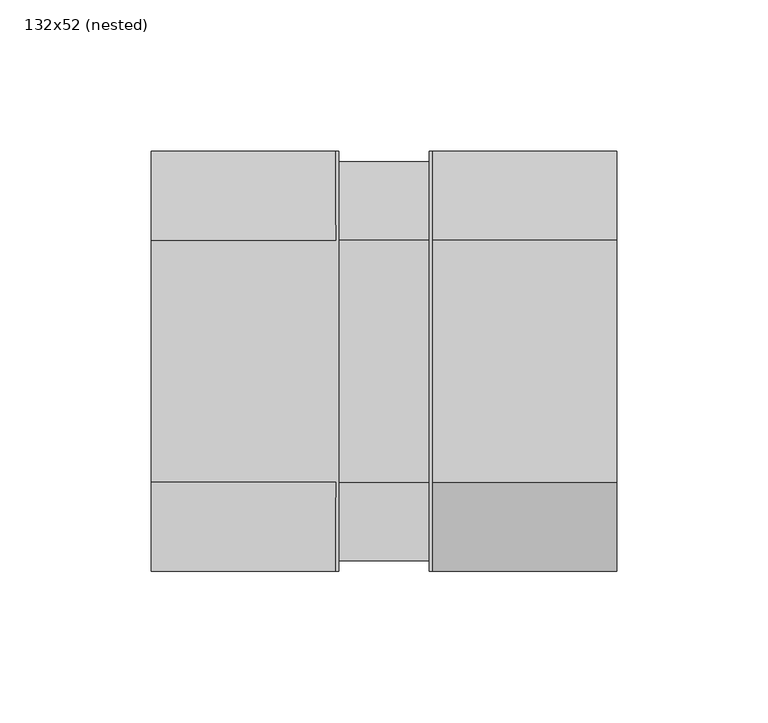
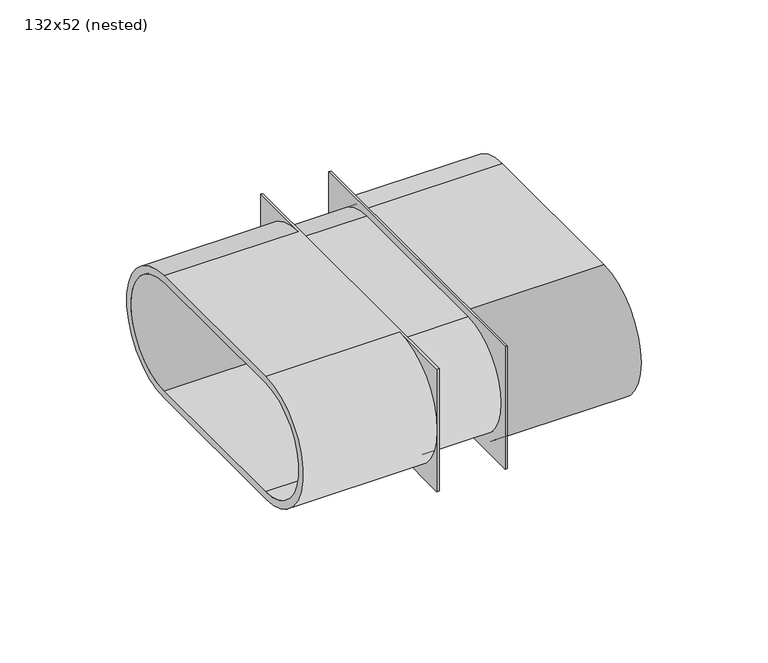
"""IFC4 building model written with IfcOpenShell, lengths in millimetres: duct fitting geometry, NLRS_57_DUF_UN_sleeve joint oval-SH_M&G : 132x52 (nested)."""

from ifc_helpers import new_model, si_unit, point, frame, frame_2d, origin, place, context, project, spatial, polyline, circle_curve, trimmed, segment, composite_curve, outline, extrude, source, transform, mapped, element, save
from ifc_brep_helpers import plane_surface, cylinder_surface, revolved_surface, advanced_brep


def duct_fitting_132x52_nested_272e3c26(model_context):
    return source(origin(), model_context, "Body", "SolidModel", [
        extrude(outline(composite_curve([segment(polyline([(-40.0, 26.0), (40.0, 26.0)]), True, "CONTINUOUS"), segment(trimmed(circle_curve(frame_2d((40.0, 0.0)), 26.0), [point((40.0, 26.0))], [point((40.0, -26.0))], False, "CARTESIAN"), True, "CONTINUOUS"), segment(polyline([(40.0, -26.0), (-40.0, -26.0)]), True, "CONTINUOUS"), segment(trimmed(circle_curve(frame_2d((-40.0, 0.0)), 26.0), [point((-40.0, -26.0))], [point((-40.0, 26.0))], False, "CARTESIAN"), True, "CONTINUOUS")], self_intersect=False)), frame((-16.0, 0.0, 0.0), z_axis=(1.0, 0.0, 0.0), x_axis=(0.0, 1.0, 0.0)), (0.0, 0.0, 1.0), 32.0),
        extrude(outline(polyline([(15.0, -69.5), (15.0, 69.5), (16.0, 69.5), (16.0, -69.5), (15.0, -69.5)])), frame((0.0, 0.0, -29.5), z_axis=(0.0, 0.0, 1.0), x_axis=(1.0, 0.0, 0.0)), (0.0, 0.0, 1.0), 59.0),
        advanced_brep(
        [(-77.0, -40.0, 29.5), (-77.0, 40.0, 29.5), (-77.0, 40.0, -29.5), (-77.0, -40.0, -29.5), (-77.0, -40.0, 26.0), (-77.0, -40.0, -26.0), (-77.0, 40.0, -26.0), (-77.0, 40.0, 26.0), (-16.0, -40.0, -29.5), (-16.0, -69.5, 0.0), (-16.0, -40.0, 29.5), (-16.0, 40.0, -29.5), (-16.0, 69.5, -29.5), (-15.0, 69.5, -29.5), (-15.0, -69.5, -29.5), (-16.0, -69.5, -29.5), (-16.0, 40.0, 29.5), (-16.0, 69.5, 0.0), (-16.0, -69.5, 29.5), (-15.0, -69.5, 29.5), (-15.0, 69.5, 29.5), (-16.0, 69.5, 29.5), (-16.0, -40.0, 26.0), (-16.0, 40.0, 26.0), (-16.0, 40.0, -26.0), (-16.0, -40.0, -26.0)],
        [
            (0, 1),
            (1, 2, circle_curve(frame((-77.0, 40.0, 0.0), z_axis=(-1.0, 0.0, 0.0), x_axis=(0.0, -1.0, 0.0)), 29.5)),
            (2, 3),
            (3, 0, circle_curve(frame((-77.0, -40.0, 0.0), z_axis=(-1.0, 0.0, 0.0), x_axis=(0.0, -1.0, 0.0)), 29.5)),
            (4, 5, circle_curve(frame((-77.0, -40.0, 0.0), z_axis=(1.0, 0.0, 0.0), x_axis=(0.0, -1.0, 0.0)), 26.0)),
            (5, 6),
            (6, 7, circle_curve(frame((-77.0, 40.0, 0.0), z_axis=(1.0, 0.0, 0.0), x_axis=(0.0, -1.0, 0.0)), 26.0)),
            (7, 4),
            (3, 8),
            (8, 9, circle_curve(frame((-16.0, -40.0, 0.0), z_axis=(-1.0, 0.0, 0.0), x_axis=(0.0, -1.0, 0.0)), 29.5)),
            (9, 10, circle_curve(frame((-16.0, -40.0, 0.0), z_axis=(-1.0, 0.0, 0.0), x_axis=(0.0, -1.0, 0.0)), 29.5)),
            (10, 0),
            (2, 11),
            (11, 12),
            (12, 13),
            (13, 14),
            (14, 15),
            (15, 8),
            (1, 16),
            (16, 17, circle_curve(frame((-16.0, 40.0, 0.0), z_axis=(-1.0, 0.0, 0.0), x_axis=(0.0, -1.0, 0.0)), 29.5)),
            (17, 11, circle_curve(frame((-16.0, 40.0, 0.0), z_axis=(-1.0, 0.0, 0.0), x_axis=(0.0, -1.0, 0.0)), 29.5)),
            (10, 18),
            (18, 19),
            (19, 20),
            (20, 21),
            (21, 16),
            (19, 14),
            (13, 20),
            (17, 12),
            (15, 9),
            (9, 18),
            (21, 17),
            (22, 23),
            (23, 24, circle_curve(frame((-16.0, 40.0, 0.0), z_axis=(-1.0, 0.0, 0.0), x_axis=(0.0, -1.0, 0.0)), 26.0)),
            (24, 25),
            (25, 22, circle_curve(frame((-16.0, -40.0, 0.0), z_axis=(-1.0, 0.0, 0.0), x_axis=(0.0, -1.0, 0.0)), 26.0)),
            (7, 23),
            (22, 4),
            (6, 24),
            (5, 25),
        ],
        [
            plane_surface(frame((-77.0, 0.0, 0.0), z_axis=(-1.0, 0.0, 0.0), x_axis=(0.0, 0.0, 1.0))),
            cylinder_surface(frame((-16.0, -40.0, 0.0), z_axis=(1.0, 0.0, 0.0), x_axis=(0.0, -1.0, 0.0)), 29.5),
            plane_surface(frame((-16.0, -40.0, -29.5), z_axis=(0.0, 0.0, -1.0), x_axis=(-1.0, 0.0, 0.0))),
            cylinder_surface(frame((-16.0, 40.0, 0.0), z_axis=(1.0, 0.0, 0.0), x_axis=(0.0, -1.0, 0.0)), 29.5),
            plane_surface(frame((-16.0, 40.0, 29.5), z_axis=(0.0, 0.0, 1.0), x_axis=(-1.0, 0.0, 0.0))),
            plane_surface(frame((-15.0, 69.5, 29.5), z_axis=(1.0, 0.0, 0.0), x_axis=(0.0, -1.0, 0.0))),
            plane_surface(frame((-16.0, 69.5, 29.5), z_axis=(-1.0, 0.0, 0.0), x_axis=(0.0, 1.0, 0.0))),
            plane_surface(frame((-16.0, -69.5, -29.5), z_axis=(0.0, -1.0, 0.0), x_axis=(1.0, 0.0, 0.0))),
            plane_surface(frame((-16.0, 69.5, 29.5), z_axis=(0.0, 1.0, 0.0), x_axis=(1.0, 0.0, 0.0))),
            plane_surface(frame((-16.0, -40.0, 26.0), z_axis=(0.0, 0.0, -1.0), x_axis=(-1.0, 0.0, 0.0))),
            revolved_surface(polyline([(-77.0, 14.0, 0.0), (-16.0, 14.0, 0.0)]), (-16.0, 40.0, 0.0), (-1.0, 0.0, 0.0)),
            plane_surface(frame((-16.0, 40.0, -26.0), z_axis=(0.0, 0.0, 1.0), x_axis=(-1.0, 0.0, 0.0))),
            revolved_surface(polyline([(-77.0, -66.0, 0.0), (-16.0, -66.0, 0.0)]), (-16.0, -40.0, 0.0), (-1.0, 0.0, 0.0)),
        ],
        [
            (0, [[1, 2, 3, 4], [5, 6, 7, 8]]),
            (1, [[-4, 9, 10, 11, 12]]),
            (2, [[-3, 13, 14, 15, 16, 17, 18, -9]]),
            (3, [[-2, 19, 20, 21, -13]]),
            (4, [[-1, -12, 22, 23, 24, 25, 26, -19]]),
            (5, [[27, -16, 28, -24]]),
            (6, [[-14, -21, 29]]),
            (6, [[-18, 30, -10]]),
            (6, [[-22, -11, 31]]),
            (6, [[-26, 32, -20]]),
            (6, [[33, 34, 35, 36]]),
            (7, [[-27, -23, -31, -30, -17]]),
            (8, [[-28, -15, -29, -32, -25]]),
            (9, [[-8, 37, -33, 38]]),
            (10, [[-7, 39, -34, -37]]),
            (11, [[-6, 40, -35, -39]]),
            (12, [[-5, -38, -36, -40]]),
        ],
    ),
        advanced_brep(
        [(16.0, -40.0, 29.5), (16.0, 40.0, 29.5), (16.0, 40.0, -29.5), (16.0, -40.0, -29.5), (16.0, -40.0, 26.0), (16.0, -40.0, -26.0), (16.0, 40.0, -26.0), (16.0, 40.0, 26.0), (77.0, -40.0, 29.5), (77.0, -40.0, -29.5), (77.0, 40.0, -29.5), (77.0, 40.0, 29.5), (77.0, -40.0, 26.0), (77.0, 40.0, 26.0), (77.0, 40.0, -26.0), (77.0, -40.0, -26.0)],
        [
            (0, 1),
            (1, 2, circle_curve(frame((16.0, 40.0, 0.0), z_axis=(-1.0, 0.0, 0.0), x_axis=(0.0, 1.0, 0.0)), 29.5)),
            (2, 3),
            (3, 0, circle_curve(frame((16.0, -40.0, 0.0), z_axis=(-1.0, 0.0, 0.0), x_axis=(0.0, 1.0, 0.0)), 29.5)),
            (4, 5, circle_curve(frame((16.0, -40.0, 0.0), z_axis=(1.0, 0.0, 0.0), x_axis=(0.0, 1.0, 0.0)), 26.0)),
            (5, 6),
            (6, 7, circle_curve(frame((16.0, 40.0, 0.0), z_axis=(1.0, 0.0, 0.0), x_axis=(0.0, 1.0, 0.0)), 26.0)),
            (7, 4),
            (8, 9, circle_curve(frame((77.0, -40.0, 0.0), z_axis=(1.0, 0.0, 0.0), x_axis=(0.0, 1.0, 0.0)), 29.5)),
            (9, 10),
            (10, 11, circle_curve(frame((77.0, 40.0, 0.0), z_axis=(1.0, 0.0, 0.0), x_axis=(0.0, 1.0, 0.0)), 29.5)),
            (11, 8),
            (12, 13),
            (13, 14, circle_curve(frame((77.0, 40.0, 0.0), z_axis=(-1.0, 0.0, 0.0), x_axis=(0.0, 1.0, 0.0)), 26.0)),
            (14, 15),
            (15, 12, circle_curve(frame((77.0, -40.0, 0.0), z_axis=(-1.0, 0.0, 0.0), x_axis=(0.0, 1.0, 0.0)), 26.0)),
            (0, 8),
            (11, 1),
            (10, 2),
            (9, 3),
            (4, 12),
            (15, 5),
            (14, 6),
            (13, 7),
        ],
        [
            plane_surface(frame((16.0, 0.0, 0.0), z_axis=(-1.0, 0.0, 0.0), x_axis=(0.0, 0.0, 1.0))),
            plane_surface(frame((77.0, 0.0, 0.0), z_axis=(1.0, 0.0, 0.0), x_axis=(0.0, 0.0, 1.0))),
            plane_surface(frame((16.0, -40.0, 29.5), z_axis=(0.0, 0.0, 1.0), x_axis=(1.0, 0.0, 0.0))),
            cylinder_surface(frame((16.0, 40.0, 0.0), z_axis=(-1.0, 0.0, 0.0), x_axis=(0.0, 1.0, 0.0)), 29.5),
            plane_surface(frame((16.0, 40.0, -29.5), z_axis=(0.0, 0.0, -1.0), x_axis=(1.0, 0.0, 0.0))),
            cylinder_surface(frame((16.0, -40.0, 0.0), z_axis=(-1.0, 0.0, 0.0), x_axis=(0.0, 1.0, 0.0)), 29.5),
            revolved_surface(polyline([(77.0, -14.0, 0.0), (16.0, -14.0, 0.0)]), (16.0, -40.0, 0.0), (1.0, 0.0, 0.0)),
            plane_surface(frame((16.0, -40.0, -26.0), z_axis=(0.0, 0.0, 1.0), x_axis=(1.0, 0.0, 0.0))),
            revolved_surface(polyline([(77.0, 66.0, 0.0), (16.0, 66.0, 0.0)]), (16.0, 40.0, 0.0), (1.0, 0.0, 0.0)),
            plane_surface(frame((16.0, 40.0, 26.0), z_axis=(0.0, 0.0, -1.0), x_axis=(1.0, 0.0, 0.0))),
        ],
        [
            (0, [[1, 2, 3, 4], [5, 6, 7, 8]]),
            (1, [[9, 10, 11, 12], [13, 14, 15, 16]]),
            (2, [[-1, 17, -12, 18]]),
            (3, [[-2, -18, -11, 19]]),
            (4, [[-3, -19, -10, 20]]),
            (5, [[-4, -20, -9, -17]]),
            (6, [[-5, 21, -16, 22]]),
            (7, [[-6, -22, -15, 23]]),
            (8, [[-7, -23, -14, 24]]),
            (9, [[-8, -24, -13, -21]]),
        ],
    ),
    ])


if __name__ == "__main__":
    model = new_model("IFC4")
    model_context = context("Model", 3, world=origin())
    ifc_project = project(units=[si_unit("LENGTHUNIT", "METRE", prefix="MILLI")], contexts=[model_context])
    site = spatial("IfcSite", under=ifc_project)
    building = spatial("IfcBuilding", under=site)
    placement = place(None, origin())
    duct_fitting_132x52_nested_shape = duct_fitting_132x52_nested_272e3c26(model_context)
    element("IfcDuctFitting", 1, ObjectType="NLRS_57_DUF_UN_sleeve joint oval-SH_M&G : 132x52 (nested)", at=placement, inside=building, context=model_context, shape_type="MappedRepresentation", body=[
        mapped(duct_fitting_132x52_nested_shape, transform((0.0, 0.0, 0.0), x_axis=(1.0, 0.0, 0.0), y_axis=(0.0, 1.0, 0.0), z_axis=(0.0, 0.0, 1.0))),
    ])
    save(model, "model.ifc")
